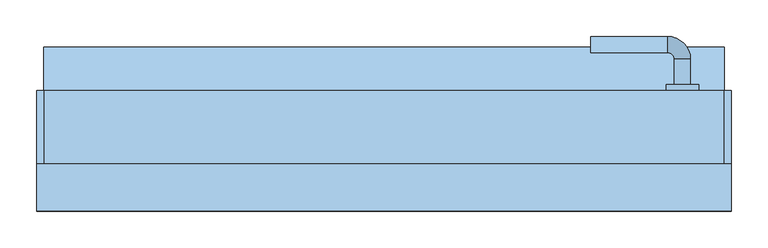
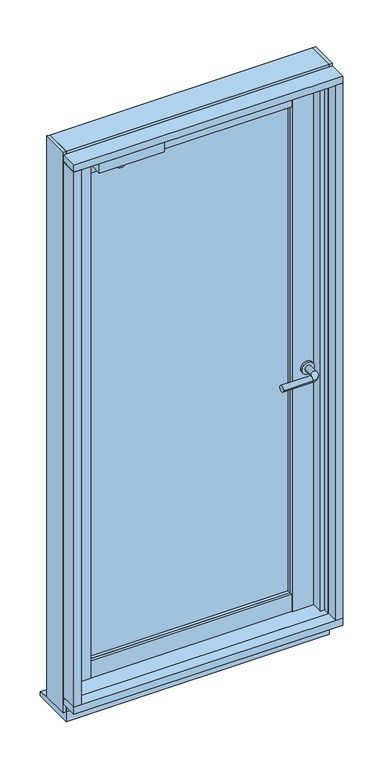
"""IFC4 building model written with IfcOpenShell, lengths in millimetres: window geometry, FNSⅡ100R_非防火_RC枠_単窓 : 片開き框ドア."""

import ifcopenshell
import ifcopenshell.guid

model = None  # the IFC model being written
_history = None  # IfcOwnerHistory: only IFC2X3 demands one
_inside = {}  # id of a spatial element -> (the spatial element, [elements in it])
_under = {}  # id of a project, library or spatial element -> (it, [spatial elements below it])
_declared = {}  # id of a project -> (the project, [libraries it declares])
_typed = {}  # id of a type object -> (the type object, [elements of that type])
_made_of = {}  # id of a material, layer set ... -> (it, [elements and type objects made of it])


def new_model(schema):
    """Start an empty IFC model of exactly this schema.

    Asked for "IFC4X3", IfcOpenShell would pick the latest addendum, in which some entities
    have other attributes; the version numbers below select the first issue.
    IFC2X3 requires an IfcOwnerHistory on every rooted entity: one is made here for all.
    """
    global model, _history
    if schema == "IFC4X3":
        model = ifcopenshell.file(schema_version=(4, 3, 0, 0))
    else:
        model = ifcopenshell.file(schema=schema)
    _inside.clear()
    _under.clear()
    _declared.clear()
    _typed.clear()
    _made_of.clear()
    _history = None
    if model.schema == "IFC2X3":
        org = make("IfcOrganization", Name="unknown")
        user = make(
            "IfcPersonAndOrganization",
            ThePerson=make("IfcPerson", FamilyName="unknown"),
            TheOrganization=org,
        )
        app = make(
            "IfcApplication",
            ApplicationDeveloper=org,
            Version="unknown",
            ApplicationFullName="unknown",
            ApplicationIdentifier="unknown",
        )
        _history = make(
            "IfcOwnerHistory",
            OwningUser=user,
            OwningApplication=app,
            ChangeAction="ADDED",
            CreationDate=0,
        )
    return model


def make(cls, **values):
    """One entity of the class cls with the attributes given. An attribute that is None is left unset."""
    return model.create_entity(
        cls, **{name: value for name, value in values.items() if value is not None}
    )


def rooted(cls, **values):
    """An entity with a GlobalId (a new one), such as an element, a storey or a relation."""
    return make(cls, GlobalId=ifcopenshell.guid.new(), OwnerHistory=_history, **values)


def si_unit(unit_type, name, prefix=None):
    """IfcSIUnit, for example si_unit("LENGTHUNIT", "METRE", prefix="MILLI")."""
    return make("IfcSIUnit", UnitType=unit_type, Prefix=prefix, Name=name)


def assignment(units):
    """IfcUnitAssignment: the units of a project."""
    return None if units is None else make("IfcUnitAssignment", Units=units)


def point(xyz):
    """IfcCartesianPoint."""
    return None if xyz is None else make("IfcCartesianPoint", Coordinates=xyz)


def direction(xyz):
    """IfcDirection."""
    return None if xyz is None else make("IfcDirection", DirectionRatios=xyz)


def frame(location, z_axis=None, x_axis=None):
    """IfcAxis2Placement3D, a coordinate frame: its origin and axes. An axis left out is left unset."""
    return make(
        "IfcAxis2Placement3D",
        Location=point(location),
        Axis=direction(z_axis),
        RefDirection=direction(x_axis),
    )


def frame_2d(location, x_axis=None):
    """IfcAxis2Placement2D, a coordinate frame in the plane: its origin and x axis."""
    return make(
        "IfcAxis2Placement2D", Location=point(location), RefDirection=direction(x_axis)
    )


def origin():
    """The frame at (0, 0, 0) with its axes left unset."""
    return frame((0.0, 0.0, 0.0))


def place(relative_to, where):
    """IfcLocalPlacement: puts the frame where relative to a parent placement (None: the world)."""
    return make(
        "IfcLocalPlacement", PlacementRelTo=relative_to, RelativePlacement=where
    )


def context(
    kind, dimensions, precision=None, world=None, true_north=None, identifier=None
):
    """IfcGeometricRepresentationContext, for example the 3D "Model" context."""
    return make(
        "IfcGeometricRepresentationContext",
        ContextIdentifier=identifier,
        ContextType=kind,
        CoordinateSpaceDimension=dimensions,
        Precision=precision,
        WorldCoordinateSystem=world,
        TrueNorth=true_north,
    )


def project(units=None, contexts=None):
    """IfcProject with its units and contexts."""
    return rooted(
        "IfcProject",
        Name="project",
        RepresentationContexts=contexts,
        UnitsInContext=assignment(units),
    )


def spatial(cls, under=None, at=None, **own):
    """A site, building, storey or space (cls), placed at a placement, below another one or the project."""
    s = rooted(cls, ObjectPlacement=at, **own)
    if under is not None:
        _under.setdefault(under.id(), (under, []))[1].append(s)
    return s


def polyline(points):
    """IfcPolyline through the points."""
    return make("IfcPolyline", Points=[point(p) for p in points])


def circle_curve(where, radius):
    """IfcCircle in the frame where."""
    return make("IfcCircle", Position=where, Radius=radius)


def ellipse_curve(where, semi_axis1, semi_axis2):
    """IfcEllipse in the frame where."""
    return make(
        "IfcEllipse", Position=where, SemiAxis1=semi_axis1, SemiAxis2=semi_axis2
    )


def trimmed(basis, trim1, trim2, sense, master):
    """IfcTrimmedCurve: the piece of a basis curve between two trims."""
    return make(
        "IfcTrimmedCurve",
        BasisCurve=basis,
        Trim1=trim1,
        Trim2=trim2,
        SenseAgreement=sense,
        MasterRepresentation=master,
    )


def segment(curve, same_sense, transition):
    """IfcCompositeCurveSegment."""
    return make(
        "IfcCompositeCurveSegment",
        Transition=transition,
        SameSense=same_sense,
        ParentCurve=curve,
    )


def composite_curve(segments, self_intersect=None):
    """IfcCompositeCurve: segments joined end to end."""
    return make("IfcCompositeCurve", Segments=segments, SelfIntersect=self_intersect)


def outline(outer, holes=None, kind="AREA"):
    """IfcArbitraryClosedProfileDef: a profile drawn as a closed curve; with holes, ...WithVoids."""
    if holes is None:
        return make("IfcArbitraryClosedProfileDef", ProfileType=kind, OuterCurve=outer)
    return make(
        "IfcArbitraryProfileDefWithVoids",
        ProfileType=kind,
        OuterCurve=outer,
        InnerCurves=holes,
    )


def extrude(swept, where, along, depth):
    """IfcExtrudedAreaSolid: the profile swept, set in the frame where, extruded along a direction by depth."""
    return make(
        "IfcExtrudedAreaSolid",
        SweptArea=swept,
        Position=where,
        ExtrudedDirection=direction(along),
        Depth=depth,
    )


def faces_of(points, faces, orient=None, outer=None):
    """IfcFace entities. A face is a list of loops; a loop is a list of indices into points, from 0.

    orient and outer hold one flag for each loop. By default every Orientation is true, the
    first loop of a face is its IfcFaceOuterBound and the others are IfcFaceBound.
    """
    made = []
    for i, loops in enumerate(faces):
        bounds = []
        for j, loop in enumerate(loops):
            is_outer = j == 0 if outer is None else outer[i][j]
            bounds.append(
                make(
                    "IfcFaceOuterBound" if is_outer else "IfcFaceBound",
                    Bound=make("IfcPolyLoop", Polygon=[points[k] for k in loop]),
                    Orientation=True if orient is None else orient[i][j],
                )
            )
        made.append(make("IfcFace", Bounds=bounds))
    return made


def faceted_brep(points, faces, orient=None, outer=None, voids=None):
    """IfcFacetedBrep: a solid bounded by flat faces; with voids (closed shells), ...WithVoids."""
    shared = [point(p) for p in points]
    hull = make("IfcClosedShell", CfsFaces=faces_of(shared, faces, orient, outer))
    if voids is None:
        return make("IfcFacetedBrep", Outer=hull)
    return make(
        "IfcFacetedBrepWithVoids",
        Outer=hull,
        Voids=[
            make(cls, CfsFaces=faces_of(shared, fs, o, b)) for cls, fs, o, b in voids
        ],
    )


def shape(context_of_items, identifier, shape_type, items):
    """IfcShapeRepresentation: the items that make up one representation, for example the "Body"."""
    return make(
        "IfcShapeRepresentation",
        ContextOfItems=context_of_items,
        RepresentationIdentifier=identifier,
        RepresentationType=shape_type,
        Items=items,
    )


def source(mapping_origin, context_of_items, identifier, shape_type, items):
    """IfcRepresentationMap: a shape defined once, which mapped items show again and again."""
    return make(
        "IfcRepresentationMap",
        MappingOrigin=mapping_origin,
        MappedRepresentation=shape(context_of_items, identifier, shape_type, items),
    )


def transform(
    local_origin,
    x_axis=None,
    y_axis=None,
    z_axis=None,
    scale=None,
    scale2=None,
    scale3=None,
    uniform=True,
):
    """IfcCartesianTransformationOperator3D, or its non-uniform kind. x_axis, y_axis, z_axis: its Axis1, 2, 3."""
    if uniform:
        return make(
            "IfcCartesianTransformationOperator3D",
            Axis1=direction(x_axis),
            Axis2=direction(y_axis),
            LocalOrigin=point(local_origin),
            Scale=scale,
            Axis3=direction(z_axis),
        )
    return make(
        "IfcCartesianTransformationOperator3DnonUniform",
        Axis1=direction(x_axis),
        Axis2=direction(y_axis),
        LocalOrigin=point(local_origin),
        Scale=scale,
        Axis3=direction(z_axis),
        Scale2=scale2,
        Scale3=scale3,
    )


def mapped(mapping_source, mapping_target):
    """IfcMappedItem: shows the shape of a source again, moved by a transform."""
    return make(
        "IfcMappedItem", MappingSource=mapping_source, MappingTarget=mapping_target
    )


def made_of(thing, what):
    """Note that an element or type object is made of a material, layer set ...; save() writes the relation."""
    if what is not None:
        _made_of.setdefault(what.id(), (what, []))[1].append(thing)
    return thing


def element(
    cls,
    number,
    at=None,
    inside=None,
    cuts=None,
    type_object=None,
    material=None,
    context=None,
    identifier="Body",
    shape_type=None,
    held_by="IfcProductDefinitionShape",
    body=None,
    shapes=None,
    **own,
):
    """One element of the class cls, such as IfcWall. Its Tag is "e" and its number.

    at: its placement. inside: the storey or other place that contains it. cuts: it is an
    opening in that element (IfcRelVoidsElement). A single representation is given by context,
    identifier, shape_type and body (its items); several are given by shapes. held_by: the class
    of the entity that holds the representations. save() writes the other relations.
    """
    e = rooted(cls, Tag="e%d" % number, ObjectPlacement=at, **own)
    if body is not None:
        shapes = [shape(context, identifier, shape_type, body)]
    if shapes is not None:
        e.Representation = make(held_by, Representations=shapes)
    if inside is not None:
        _inside.setdefault(inside.id(), (inside, []))[1].append(e)
    if cuts is not None:
        rooted(
            "IfcRelVoidsElement", RelatingBuildingElement=cuts, RelatedOpeningElement=e
        )
    if type_object is not None:
        _typed.setdefault(type_object.id(), (type_object, []))[1].append(e)
    return made_of(e, material)


def aggregate(whole, parts):
    """IfcRelAggregates: a whole, such as a stair, and the parts it consists of."""
    return rooted("IfcRelAggregates", RelatingObject=whole, RelatedObjects=parts)


def save(model, path):
    """Write the relations noted so far, then the file.

    IfcRelAggregates (storeys below a building ...), IfcRelContainedInSpatialStructure (elements
    in a storey), IfcRelDefinesByType, IfcRelAssociatesMaterial and IfcRelDeclares: one each for
    every whole, place, type object, material and project.
    """
    for whole, parts in _under.values():
        aggregate(whole, parts)
    for where, things in _inside.values():
        rooted(
            "IfcRelContainedInSpatialStructure",
            RelatedElements=things,
            RelatingStructure=where,
        )
    for kind, things in _typed.values():
        rooted("IfcRelDefinesByType", RelatedObjects=things, RelatingType=kind)
    for what, things in _made_of.values():
        rooted("IfcRelAssociatesMaterial", RelatedObjects=things, RelatingMaterial=what)
    for by, libraries in _declared.values():
        rooted("IfcRelDeclares", RelatingContext=by, RelatedDefinitions=libraries)
    model.write(path)


def plane_surface(at):
    """IfcPlane: the flat surface through the origin of the frame at, square to its z axis."""
    return make("IfcPlane", Position=at)


def cylinder_surface(at, radius):
    """IfcCylindricalSurface: all points at the distance radius from the z axis of the frame at."""
    return make("IfcCylindricalSurface", Position=at, Radius=radius)


def revolved_surface(curve, axis_point, axis_direction):
    """IfcSurfaceOfRevolution: the curve turned about the line through axis_point along axis_direction."""
    return make(
        "IfcSurfaceOfRevolution",
        SweptCurve=make("IfcArbitraryOpenProfileDef", ProfileType="CURVE", Curve=curve),
        AxisPosition=make("IfcAxis1Placement", Location=point(axis_point), Axis=direction(axis_direction)),
    )


def advanced_brep(points, edges, surfaces, faces):
    """IfcAdvancedBrep: a solid bounded by faces that lie on surfaces and meet in shared edges.

    An edge is (start, end): straight between two places in points (the first is 0);
    or (start, end, curve); or (start, end, curve, False) where it runs against its curve.
    A face is (place in surfaces, loops), or (place, loops, False) where it looks against
    its surface's normal. A loop lists edges by number (the first is 1), with a minus sign
    where the edge is run from its end to its start. The first loop is the outer one.
    """
    corners = [point(p) for p in points]
    vertices = [make("IfcVertexPoint", VertexGeometry=c) for c in corners]
    made = []
    for start, end, *more in edges:
        made.append(
            make(
                "IfcEdgeCurve",
                EdgeStart=vertices[start],
                EdgeEnd=vertices[end],
                EdgeGeometry=more[0] if more else make("IfcPolyline", Points=[corners[start], corners[end]]),
                SameSense=more[1] if len(more) > 1 else True,
            )
        )
    hull = []
    for where, loops, *sense in faces:
        bounds = []
        for j, loop in enumerate(loops):
            ring = [make("IfcOrientedEdge", EdgeElement=made[abs(k) - 1], Orientation=k > 0) for k in loop]
            bounds.append(
                make(
                    "IfcFaceOuterBound" if j == 0 else "IfcFaceBound",
                    Bound=make("IfcEdgeLoop", EdgeList=ring),
                    Orientation=True,
                )
            )
        hull.append(make("IfcAdvancedFace", Bounds=bounds, FaceSurface=surfaces[where], SameSense=sense[0] if sense else True))
    return make("IfcAdvancedBrep", Outer=make("IfcClosedShell", CfsFaces=hull))


def window_d8e5e20b(model_context):
    return source(origin(), model_context, "Body", "SolidModel", [
        extrude(outline(composite_curve([segment(trimmed(circle_curve(frame_2d((-269.0, -29.7)), 16.1), [point((-285.1, -29.7))], [point((-252.9, -29.7))], False, "CARTESIAN"), True, "CONTINUOUS"), segment(trimmed(circle_curve(frame_2d((-269.0, -29.7)), 16.1), [point((-252.9, -29.7))], [point((-285.1, -29.7))], False, "CARTESIAN"), True, "CONTINUOUS")], self_intersect=False)), frame((0.0, 0.0, 2807.0), z_axis=(0.0, 0.0, 1.0), x_axis=(1.0, 0.0, 0.0)), (0.0, 0.0, 1.0), 8.0),
        extrude(outline(polyline([(-350.0, -4.2), (-120.0, -4.2), (-120.0, -49.2), (-350.0, -49.2), (-350.0, -4.2)])), frame((0.0, 0.0, 2815.0), z_axis=(0.0, 0.0, 1.0), x_axis=(1.0, 0.0, 0.0)), (0.0, 0.0, 1.0), 51.0),
        advanced_brep(
        [(397.0, 55.0, 1800.0), (397.0, 98.0, 1800.0), (419.0, 98.0, 1800.0), (419.0, 55.0, 1800.0), (388.0, 107.0, 1800.0), (388.0, 129.0, 1800.0), (283.0, 129.0, 1800.0), (283.0, 107.0, 1800.0)],
        [
            (0, 1),
            (1, 2, circle_curve(frame((408.0, 98.0, 1800.0), z_axis=(0.0, -1.0, 0.0), x_axis=(1.0, 0.0, 0.0)), 11.0)),
            (2, 3),
            (3, 0, circle_curve(frame((408.0, 55.0, 1800.0), z_axis=(0.0, 1.0, 0.0), x_axis=(1.0, 0.0, 0.0)), 11.0)),
            (2, 1, circle_curve(frame((408.0, 98.0, 1800.0), z_axis=(0.0, -1.0, 0.0), x_axis=(1.0, 0.0, 0.0)), 11.0)),
            (0, 3, circle_curve(frame((408.0, 55.0, 1800.0), z_axis=(0.0, 1.0, 0.0), x_axis=(1.0, 0.0, 0.0)), 11.0)),
            (4, 5, circle_curve(frame((388.0, 118.0, 1800.0), z_axis=(1.0, 0.0, 0.0), x_axis=(0.0, 1.0, 0.0)), 11.0)),
            (5, 2, circle_curve(frame((388.0, 98.0, 1800.0), z_axis=(0.0, 0.0, -1.0), x_axis=(1.0, 0.0, 0.0)), 31.0)),
            (1, 4, circle_curve(frame((388.0, 98.0, 1800.0), z_axis=(0.0, 0.0, 1.0), x_axis=(1.0, 0.0, 0.0)), 9.0)),
            (5, 4, circle_curve(frame((388.0, 118.0, 1800.0), z_axis=(1.0, 0.0, 0.0), x_axis=(0.0, 1.0, 0.0)), 11.0)),
            (5, 6),
            (6, 7, circle_curve(frame((283.0, 118.0, 1800.0), z_axis=(1.0, 0.0, 0.0), x_axis=(0.0, 1.0, 0.0)), 11.0)),
            (7, 4),
            (6, 7, circle_curve(frame((283.0, 118.0, 1800.0), z_axis=(-1.0, 0.0, 0.0), x_axis=(0.0, 1.0, 0.0)), 11.0)),
        ],
        [
            cylinder_surface(frame((408.0, 55.0, 1800.0), z_axis=(0.0, -1.0, 0.0), x_axis=(1.0, 0.0, 0.0)), 11.0),
            revolved_surface(trimmed(ellipse_curve(frame((408.0, 98.0, 1800.0), z_axis=(0.0, 1.0, 0.0), x_axis=(1.0, 0.0, 0.0)), 11.0, 11.0), [point((419.0, 98.0, 1800.0))], [point((397.0, 98.0, 1800.0))], True, "CARTESIAN"), (388.0, 98.0, 1800.0), (0.0, 0.0, -1.0)),
            revolved_surface(trimmed(ellipse_curve(frame((408.0, 98.0, 1800.0), z_axis=(0.0, 1.0, 0.0), x_axis=(1.0, 0.0, 0.0)), 11.0, 11.0), [point((397.0, 98.0, 1800.0))], [point((419.0, 98.0, 1800.0))], True, "CARTESIAN"), (388.0, 98.0, 1800.0), (0.0, 0.0, -1.0)),
            cylinder_surface(frame((388.0, 118.0, 1800.0), z_axis=(1.0, 0.0, 0.0), x_axis=(0.0, 1.0, 0.0)), 11.0),
            plane_surface(frame((408.0, 55.0, 1800.0), z_axis=(0.0, -1.0, 0.0), x_axis=(0.0, 0.0, 1.0))),
            plane_surface(frame((283.0, 118.0, 1800.0), z_axis=(-1.0, 0.0, 0.0), x_axis=(0.0, 0.0, 1.0))),
        ],
        [
            (0, [[1, 2, 3, 4]]),
            (0, [[-3, 5, -1, 6]]),
            (1, [[7, 8, -2, 9]]),
            (2, [[10, -9, -5, -8]]),
            (3, [[11, 12, 13, -10]]),
            (4, [[-4, -6]]),
            (5, [[-12, 14]]),
            (3, [[-13, -14, -11, -7]]),
        ],
    ),
        extrude(outline(composite_curve([segment(trimmed(circle_curve(frame_2d((1800.0, 408.0)), 22.0), [point((1800.0, 430.0))], [point((1800.0, 386.0))], False, "CARTESIAN"), True, "CONTINUOUS"), segment(trimmed(circle_curve(frame_2d((1800.0, 408.0)), 22.0), [point((1800.0, 386.0))], [point((1800.0, 430.0))], False, "CARTESIAN"), True, "CONTINUOUS")], self_intersect=False)), frame((0.0, 55.0, 0.0), z_axis=(0.0, 1.0, 0.0), x_axis=(0.0, 0.0, 1.0)), (0.0, 0.0, 1.0), 8.0),
        extrude(outline(composite_curve([segment(trimmed(circle_curve(frame_2d((1800.0, 408.0)), 22.0), [point((1800.0, 386.0))], [point((1800.0, 430.0))], False, "CARTESIAN"), True, "CONTINUOUS"), segment(trimmed(circle_curve(frame_2d((1800.0, 408.0)), 22.0), [point((1800.0, 430.0))], [point((1800.0, 386.0))], False, "CARTESIAN"), True, "CONTINUOUS")], self_intersect=False)), frame((0.0, -14.0, 0.0), z_axis=(0.0, 1.0, 0.0), x_axis=(0.0, 0.0, 1.0)), (0.0, 0.0, 1.0), 8.0),
        advanced_brep(
        [(419.0, -6.0, 1800.0), (397.0, -6.0, 1800.0), (397.0, -49.0, 1800.0), (419.0, -49.0, 1800.0), (388.0, -58.0, 1800.0), (388.0, -80.0, 1800.0), (283.0, -80.0, 1800.0), (283.0, -58.0, 1800.0)],
        [
            (0, 1, circle_curve(frame((408.0, -6.0, 1800.0), z_axis=(0.0, 1.0, 0.0), x_axis=(-1.0, 0.0, 0.0)), 11.0)),
            (1, 0, circle_curve(frame((408.0, -6.0, 1800.0), z_axis=(0.0, 1.0, 0.0), x_axis=(-1.0, 0.0, 0.0)), 11.0)),
            (1, 2),
            (2, 3, circle_curve(frame((408.0, -49.0, 1800.0), z_axis=(0.0, 1.0, 0.0), x_axis=(-1.0, 0.0, 0.0)), 11.0)),
            (3, 0),
            (3, 2, circle_curve(frame((408.0, -49.0, 1800.0), z_axis=(0.0, 1.0, 0.0), x_axis=(-1.0, 0.0, 0.0)), 11.0)),
            (4, 5, circle_curve(frame((388.0, -69.0, 1800.0), z_axis=(1.0, 0.0, 0.0), x_axis=(0.0, 1.0, 0.0)), 11.0)),
            (5, 3, circle_curve(frame((388.0, -49.0, 1800.0), z_axis=(0.0, 0.0, 1.0), x_axis=(1.0, 0.0, 0.0)), 31.0)),
            (2, 4, circle_curve(frame((388.0, -49.0, 1800.0), z_axis=(0.0, 0.0, -1.0), x_axis=(1.0, 0.0, 0.0)), 9.0)),
            (5, 4, circle_curve(frame((388.0, -69.0, 1800.0), z_axis=(1.0, 0.0, 0.0), x_axis=(0.0, 1.0, 0.0)), 11.0)),
            (6, 7, circle_curve(frame((283.0, -69.0, 1800.0), z_axis=(-1.0, 0.0, 0.0), x_axis=(0.0, 1.0, 0.0)), 11.0)),
            (7, 6, circle_curve(frame((283.0, -69.0, 1800.0), z_axis=(-1.0, 0.0, 0.0), x_axis=(0.0, 1.0, 0.0)), 11.0)),
            (4, 7),
            (6, 5),
        ],
        [
            plane_surface(frame((408.0, -6.0, 1800.0), z_axis=(0.0, 1.0, 0.0), x_axis=(0.0, 0.0, 1.0))),
            cylinder_surface(frame((408.0, -6.0, 1800.0), z_axis=(0.0, 1.0, 0.0), x_axis=(-1.0, 0.0, 0.0)), 11.0),
            revolved_surface(trimmed(ellipse_curve(frame((408.0, -49.0, 1800.0), z_axis=(0.0, -1.0, 0.0), x_axis=(-1.0, 0.0, 0.0)), 11.0, 11.0), [point((419.0, -49.0, 1800.0))], [point((397.0, -49.0, 1800.0))], True, "CARTESIAN"), (388.0, -49.0, 1800.0), (0.0, 0.0, 1.0)),
            revolved_surface(trimmed(ellipse_curve(frame((408.0, -49.0, 1800.0), z_axis=(0.0, -1.0, 0.0), x_axis=(-1.0, 0.0, 0.0)), 11.0, 11.0), [point((397.0, -49.0, 1800.0))], [point((419.0, -49.0, 1800.0))], True, "CARTESIAN"), (388.0, -49.0, 1800.0), (0.0, 0.0, 1.0)),
            plane_surface(frame((283.0, -69.0, 1800.0), z_axis=(-1.0, 0.0, 0.0), x_axis=(0.0, 0.0, 1.0))),
            cylinder_surface(frame((388.0, -69.0, 1800.0), z_axis=(1.0, 0.0, 0.0), x_axis=(0.0, 1.0, 0.0)), 11.0),
        ],
        [
            (0, [[1, 2]]),
            (1, [[3, 4, 5, -2]]),
            (1, [[-5, 6, -3, -1]]),
            (2, [[7, 8, -4, 9]]),
            (3, [[10, -9, -6, -8]]),
            (4, [[11, 12]]),
            (5, [[13, -11, 14, -7]]),
            (5, [[-14, -12, -13, -10]]),
        ],
    ),
        extrude(outline(polyline([(-356.0, 25.0), (356.0, 25.0), (356.0, 19.0), (-356.0, 19.0), (-356.0, 25.0)])), frame((0.0, 0.0, 967.0), z_axis=(0.0, 0.0, 1.0), x_axis=(1.0, 0.0, 0.0)), (0.0, 0.0, 1.0), 1822.0),
        extrude(outline(polyline([(-356.0, 43.0), (356.0, 43.0), (356.0, 37.0), (-356.0, 37.0), (-356.0, 43.0)])), frame((0.0, 0.0, 967.0), z_axis=(0.0, 0.0, 1.0), x_axis=(1.0, 0.0, 0.0)), (0.0, 0.0, 1.0), 1822.0),
        extrude(outline(polyline([(-356.0, -6.0), (-431.0, -6.0), (-431.0, 6.0), (-356.0, 6.0), (-356.0, -6.0)])), frame((0.0, 0.0, 904.0), z_axis=(0.0, 0.0, 1.0), x_axis=(1.0, 0.0, 0.0)), (0.0, 0.0, 1.0), 1973.0),
        extrude(outline(polyline([(356.0, -6.0), (356.0, 6.0), (431.0, 6.0), (431.0, -6.0), (356.0, -6.0)])), frame((0.0, 0.0, 904.0), z_axis=(0.0, 0.0, 1.0), x_axis=(1.0, 0.0, 0.0)), (0.0, 0.0, 1.0), 1973.0),
        extrude(outline(polyline([(-446.0, 55.0), (-356.0, 55.0), (-356.0, 6.0), (-446.0, 6.0), (-446.0, 55.0)])), frame((0.0, 0.0, 862.0), z_axis=(0.0, 0.0, 1.0), x_axis=(1.0, 0.0, 0.0)), (0.0, 0.0, 1.0), 2032.0),
        extrude(outline(polyline([(446.0, 55.0), (446.0, 6.0), (356.0, 6.0), (356.0, 55.0), (446.0, 55.0)])), frame((0.0, 0.0, 862.0), z_axis=(0.0, 0.0, 1.0), x_axis=(1.0, 0.0, 0.0)), (0.0, 0.0, 1.0), 2032.0),
        extrude(outline(polyline([(356.0, 6.0), (356.0, -4.2), (-356.0, -4.2), (-356.0, 6.0), (356.0, 6.0)])), frame((0.0, 0.0, 904.0), z_axis=(0.0, 0.0, 1.0), x_axis=(1.0, 0.0, 0.0)), (0.0, 0.0, 1.0), 63.0),
        extrude(outline(polyline([(356.0, 55.0), (356.0, 6.0), (-356.0, 6.0), (-356.0, 55.0), (356.0, 55.0)])), frame((0.0, 0.0, 862.0), z_axis=(0.0, 0.0, 1.0), x_axis=(1.0, 0.0, 0.0)), (0.0, 0.0, 1.0), 105.0),
        extrude(outline(polyline([(356.0, 6.0), (356.0, -4.2), (-356.0, -4.2), (-356.0, 6.0), (356.0, 6.0)])), frame((0.0, 0.0, 2789.0), z_axis=(0.0, 0.0, 1.0), x_axis=(1.0, 0.0, 0.0)), (0.0, 0.0, 1.0), 88.0),
        extrude(outline(polyline([(356.0, 55.0), (356.0, 6.0), (-356.0, 6.0), (-356.0, 55.0), (356.0, 55.0)])), frame((0.0, 0.0, 2789.0), z_axis=(0.0, 0.0, 1.0), x_axis=(1.0, 0.0, 0.0)), (0.0, 0.0, 1.0), 105.0),
        faceted_brep([(-475.0, 55.0, 2935.0), (-475.0, -45.0, 2935.0), (-465.0, -45.0, 2935.0), (-465.0, 55.0, 2935.0), (-475.0, 55.0, 840.0), (-465.0, 55.0, 840.0), (-465.0, -45.0, 840.0), (-475.0, -45.0, 840.0), (-465.0, 55.0, 850.0), (-465.0, -2.0, 850.0), (-465.0, -2.0, 2900.0), (-465.0, 55.0, 2900.0), (-450.0, 55.0, 2900.0), (-450.0, 55.0, 850.0), (-436.3, -2.0, 2900.0), (-436.3, 3.0, 2900.0), (-450.0, 3.0, 2900.0), (-436.3, 3.0, 850.0), (-450.0, 3.0, 850.0), (-436.3, -2.0, 850.0)], [[[0, 1, 2, 3]], [[4, 5, 6, 7]], [[1, 0, 4, 7]], [[2, 1, 7, 6]], [[3, 2, 6, 5, 8, 9, 10, 11]], [[0, 3, 11, 12, 13, 8, 5, 4]], [[12, 11, 10, 14, 15, 16]], [[16, 15, 17, 18]], [[13, 18, 17, 19, 9, 8]], [[14, 10, 9, 19]], [[12, 16, 18, 13]], [[15, 14, 19, 17]]]),
        faceted_brep([(465.0, -45.0, 2935.0), (475.0, -45.0, 2935.0), (475.0, 55.0, 2935.0), (465.0, 55.0, 2935.0), (465.0, -45.0, 840.0), (465.0, 55.0, 840.0), (475.0, 55.0, 840.0), (475.0, -45.0, 840.0), (450.0, 55.0, 2900.0), (450.0, 3.0, 2900.0), (436.3, 3.0, 2900.0), (436.3, -2.0, 2900.0), (465.0, -2.0, 2900.0), (465.0, 55.0, 2900.0), (465.0, 55.0, 850.0), (450.0, 55.0, 850.0), (465.0, -2.0, 850.0), (450.0, 3.0, 850.0), (436.3, 3.0, 850.0), (436.3, -2.0, 850.0)], [[[0, 1, 2, 3]], [[4, 5, 6, 7]], [[8, 9, 10, 11, 12, 13]], [[3, 2, 6, 5, 14, 15, 8, 13]], [[0, 3, 13, 12, 16, 14, 5, 4]], [[9, 8, 15, 17]], [[10, 9, 17, 18]], [[11, 10, 18, 19]], [[12, 11, 19, 16]], [[15, 14, 16, 19, 18, 17]], [[1, 0, 4, 7]], [[2, 1, 7, 6]]]),
        extrude(outline(polyline([(-465.0, -45.0), (-465.0, -2.0), (-435.0, -2.0), (-435.0, -42.5), (-450.0, -42.5), (-450.0, -65.0), (-453.0, -65.0), (-453.0, -45.0), (-465.0, -45.0)])), frame((0.0, 0.0, 900.0), z_axis=(0.0, 0.0, 1.0), x_axis=(1.0, 0.0, 0.0)), (0.0, 0.0, 1.0), 2003.0),
        extrude(outline(polyline([(465.0, -45.0), (453.0, -45.0), (453.0, -65.0), (450.0, -65.0), (450.0, -42.5), (435.0, -42.5), (435.0, -2.0), (465.0, -2.0), (465.0, -45.0)])), frame((0.0, 0.0, 900.0), z_axis=(0.0, 0.0, 1.0), x_axis=(1.0, 0.0, 0.0)), (0.0, 0.0, 1.0), 2003.0),
        extrude(outline(polyline([(-45.0, 884.0), (-45.0, 897.0), (-65.0, 897.0), (-65.0, 900.0), (2.0, 900.0), (2.0, 884.0), (-45.0, 884.0)])), frame((-453.0, 0.0, 0.0), z_axis=(1.0, 0.0, 0.0), x_axis=(0.0, 1.0, 0.0)), (0.0, 0.0, 1.0), 906.0),
        extrude(outline(polyline([(55.0, 840.0), (-45.0, 840.0), (-45.0, 884.0), (2.0, 884.0), (2.0, 850.0), (55.0, 850.0), (55.0, 840.0)])), frame((-465.0, 0.0, 0.0), z_axis=(1.0, 0.0, 0.0), x_axis=(0.0, 1.0, 0.0)), (0.0, 0.0, 1.0), 930.0),
        extrude(outline(polyline([(-2.3, 2884.0), (-39.0, 2884.0), (-39.0, 2900.0), (-65.0, 2900.0), (-65.0, 2903.0), (-45.0, 2903.0), (-45.0, 2914.5), (-2.3, 2914.5), (-2.3, 2884.0)])), frame((-450.0, 0.0, 0.0), z_axis=(1.0, 0.0, 0.0), x_axis=(0.0, 1.0, 0.0)), (0.0, 0.0, 1.0), 900.0),
        extrude(outline(polyline([(55.0, 2900.0), (3.0, 2900.0), (3.0, 2884.0), (-2.3, 2884.0), (-2.3, 2914.5), (-45.0, 2914.5), (-45.0, 2935.0), (55.0, 2935.0), (55.0, 2900.0)])), frame((-465.0, 0.0, 0.0), z_axis=(1.0, 0.0, 0.0), x_axis=(0.0, 1.0, 0.0)), (0.0, 0.0, 1.0), 930.0),
        extrude(outline(polyline([(-110.0, 900.0), (-65.0, 900.0), (-65.0, 897.0), (-45.0, 897.0), (-45.0, 875.0), (-110.0, 875.0), (-110.0, 900.0)])), frame((-475.0, 0.0, 0.0), z_axis=(1.0, 0.0, 0.0), x_axis=(0.0, 1.0, 0.0)), (0.0, 0.0, 1.0), 950.0),
        extrude(outline(polyline([(45.0, 840.0), (55.0, 840.0), (55.0, 828.4285714), (45.0, 830.0), (45.0, 840.0)])), frame((-465.0, 0.0, 0.0), z_axis=(1.0, 0.0, 0.0), x_axis=(0.0, 1.0, 0.0)), (0.0, 0.0, 1.0), 930.0),
        extrude(outline(polyline([(-45.0, 804.0), (-45.0, 840.0), (45.0, 840.0), (45.0, 830.0), (115.0, 819.0), (115.0, 804.0), (-45.0, 804.0)])), frame((-465.0, 0.0, 0.0), z_axis=(1.0, 0.0, 0.0), x_axis=(0.0, 1.0, 0.0)), (0.0, 0.0, 1.0), 930.0),
        extrude(outline(polyline([(475.0, -45.0), (475.0, -110.0), (450.0, -110.0), (450.0, -65.0), (453.0, -65.0), (453.0, -45.0), (475.0, -45.0)])), frame((0.0, 0.0, 900.0), z_axis=(0.0, 0.0, 1.0), x_axis=(1.0, 0.0, 0.0)), (0.0, 0.0, 1.0), 2000.0),
        extrude(outline(polyline([(-453.0, -45.0), (-453.0, -65.0), (-450.0, -65.0), (-450.0, -110.0), (-475.0, -110.0), (-475.0, -45.0), (-453.0, -45.0)])), frame((0.0, 0.0, 900.0), z_axis=(0.0, 0.0, 1.0), x_axis=(1.0, 0.0, 0.0)), (0.0, 0.0, 1.0), 2000.0),
        extrude(outline(polyline([(-110.0, 2925.0), (-45.0, 2925.0), (-45.0, 2903.0), (-65.0, 2903.0), (-65.0, 2900.0), (-110.0, 2900.0), (-110.0, 2925.0)])), frame((-475.0, 0.0, 0.0), z_axis=(1.0, 0.0, 0.0), x_axis=(0.0, 1.0, 0.0)), (0.0, 0.0, 1.0), 950.0),
    ])


if __name__ == "__main__":
    model = new_model("IFC4")
    model_context = context("Model", 3, world=origin())
    ifc_project = project(units=[si_unit("LENGTHUNIT", "METRE", prefix="MILLI")], contexts=[model_context])
    site = spatial("IfcSite", under=ifc_project)
    building = spatial("IfcBuilding", under=site)
    placement = place(None, origin())
    window_shape = window_d8e5e20b(model_context)
    element("IfcWindow", 1, ObjectType="FNSⅡ100R_非防火_RC枠_単窓 : 片開き框ドア", at=placement, inside=building, context=model_context, shape_type="MappedRepresentation", body=[
        mapped(window_shape, transform((0.0, 0.0, 0.0), x_axis=(1.0, 0.0, 0.0), y_axis=(0.0, 1.0, 0.0), z_axis=(0.0, 0.0, 1.0))),
    ])
    save(model, "model.ifc")
